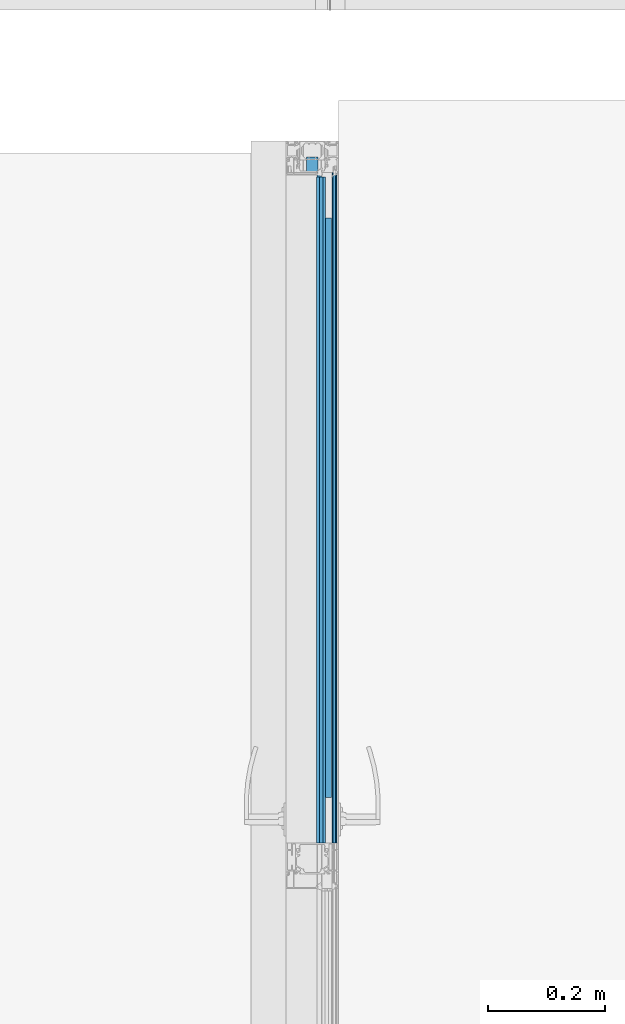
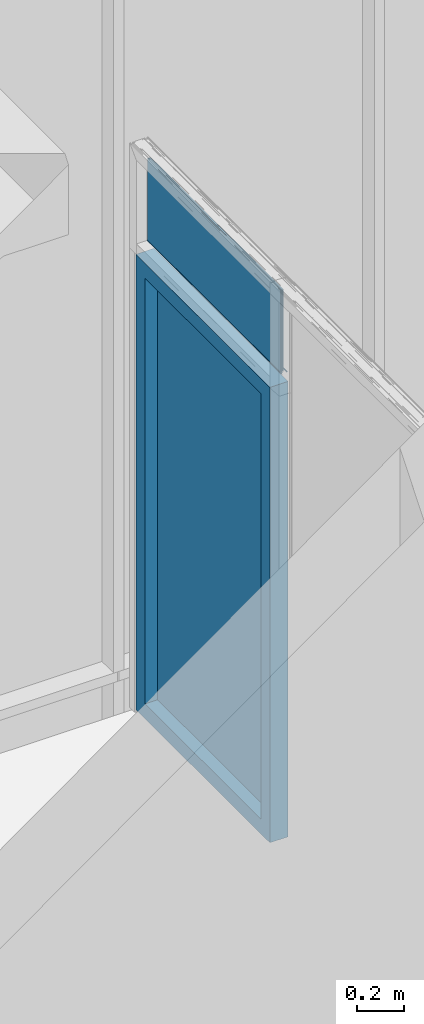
# One storey, part 41 of 62: 5 building element parts, 4 elements without a shape of their own.
"""IFC2X3 building model written with IfcOpenShell, lengths in millimetres."""

import ifcopenshell
import ifcopenshell.guid

model = None  # the IFC model being written
_history = None  # IfcOwnerHistory: only IFC2X3 demands one
_inside = {}  # id of a spatial element -> (the spatial element, [elements in it])
_under = {}  # id of a project, library or spatial element -> (it, [spatial elements below it])
_declared = {}  # id of a project -> (the project, [libraries it declares])
_typed = {}  # id of a type object -> (the type object, [elements of that type])
_made_of = {}  # id of a material, layer set ... -> (it, [elements and type objects made of it])


def new_model(schema):
    """Start an empty IFC model of exactly this schema.

    Asked for "IFC4X3", IfcOpenShell would pick the latest addendum, in which some entities
    have other attributes; the version numbers below select the first issue.
    IFC2X3 requires an IfcOwnerHistory on every rooted entity: one is made here for all.
    """
    global model, _history
    if schema == "IFC4X3":
        model = ifcopenshell.file(schema_version=(4, 3, 0, 0))
    else:
        model = ifcopenshell.file(schema=schema)
    _inside.clear()
    _under.clear()
    _declared.clear()
    _typed.clear()
    _made_of.clear()
    _history = None
    if model.schema == "IFC2X3":
        org = make("IfcOrganization", Name="unknown")
        user = make(
            "IfcPersonAndOrganization",
            ThePerson=make("IfcPerson", FamilyName="unknown"),
            TheOrganization=org,
        )
        app = make(
            "IfcApplication",
            ApplicationDeveloper=org,
            Version="unknown",
            ApplicationFullName="unknown",
            ApplicationIdentifier="unknown",
        )
        _history = make(
            "IfcOwnerHistory",
            OwningUser=user,
            OwningApplication=app,
            ChangeAction="ADDED",
            CreationDate=0,
        )
    return model


def make(cls, **values):
    """One entity of the class cls with the attributes given. An attribute that is None is left unset."""
    return model.create_entity(
        cls, **{name: value for name, value in values.items() if value is not None}
    )


def entity(cls, *values):
    """Any entity or typed value of the class cls, its attributes in the order of the schema. None: left unset."""
    e = model.create_entity(cls)
    for i, value in enumerate(values):
        if value is not None:
            e[i] = value
    return e


def rooted(cls, **values):
    """An entity with a GlobalId (a new one), such as an element, a storey or a relation."""
    return make(cls, GlobalId=ifcopenshell.guid.new(), OwnerHistory=_history, **values)


def si_unit(unit_type, name, prefix=None):
    """IfcSIUnit, for example si_unit("LENGTHUNIT", "METRE", prefix="MILLI")."""
    return make("IfcSIUnit", UnitType=unit_type, Prefix=prefix, Name=name)


def converted_unit(unit_type, name, factor, base, dimensions=None, offset=None):
    """IfcConversionBasedUnit, such as the inch: factor (a typed value) times the base unit."""
    return make(
        "IfcConversionBasedUnit"
        if offset is None
        else "IfcConversionBasedUnitWithOffset",
        ConversionOffset=offset,
        Dimensions=None
        if dimensions is None
        else entity("IfcDimensionalExponents", *dimensions),
        UnitType=unit_type,
        Name=name,
        ConversionFactor=make(
            "IfcMeasureWithUnit", ValueComponent=factor, UnitComponent=base
        ),
    )


def derived_unit(unit_type, elements):
    """IfcDerivedUnit: a product of units, each with its exponent."""
    return make(
        "IfcDerivedUnit",
        Elements=[
            make("IfcDerivedUnitElement", Unit=unit, Exponent=power)
            for unit, power in elements
        ],
        UnitType=unit_type,
    )


def money_unit(currency):
    """IfcMonetaryUnit."""
    return make("IfcMonetaryUnit", Currency=currency)


def assignment(units):
    """IfcUnitAssignment: the units of a project."""
    return None if units is None else make("IfcUnitAssignment", Units=units)


def point(xyz):
    """IfcCartesianPoint."""
    return None if xyz is None else make("IfcCartesianPoint", Coordinates=xyz)


def direction(xyz):
    """IfcDirection."""
    return None if xyz is None else make("IfcDirection", DirectionRatios=xyz)


def frame(location, z_axis=None, x_axis=None):
    """IfcAxis2Placement3D, a coordinate frame: its origin and axes. An axis left out is left unset."""
    return make(
        "IfcAxis2Placement3D",
        Location=point(location),
        Axis=direction(z_axis),
        RefDirection=direction(x_axis),
    )


def origin_with_axes():
    """The frame at (0, 0, 0) with the z axis (0, 0, 1) and the x axis (1, 0, 0) written out."""
    return frame((0.0, 0.0, 0.0), z_axis=(0.0, 0.0, 1.0), x_axis=(1.0, 0.0, 0.0))


def place(relative_to, where):
    """IfcLocalPlacement: puts the frame where relative to a parent placement (None: the world)."""
    return make(
        "IfcLocalPlacement", PlacementRelTo=relative_to, RelativePlacement=where
    )


def context(
    kind, dimensions, precision=None, world=None, true_north=None, identifier=None
):
    """IfcGeometricRepresentationContext, for example the 3D "Model" context."""
    return make(
        "IfcGeometricRepresentationContext",
        ContextIdentifier=identifier,
        ContextType=kind,
        CoordinateSpaceDimension=dimensions,
        Precision=precision,
        WorldCoordinateSystem=world,
        TrueNorth=true_north,
    )


def subcontext(parent, identifier, kind, view, scale=None):
    """IfcGeometricRepresentationSubContext, for example "Body" below "Model"."""
    return make(
        "IfcGeometricRepresentationSubContext",
        ContextIdentifier=identifier,
        ContextType=kind,
        ParentContext=parent,
        TargetScale=scale,
        TargetView=view,
    )


def project(units=None, contexts=None):
    """IfcProject with its units and contexts."""
    return rooted(
        "IfcProject",
        Name="project",
        RepresentationContexts=contexts,
        UnitsInContext=assignment(units),
    )


def spatial(cls, under=None, at=None, **own):
    """A site, building, storey or space (cls), placed at a placement, below another one or the project."""
    s = rooted(cls, ObjectPlacement=at, **own)
    if under is not None:
        _under.setdefault(under.id(), (under, []))[1].append(s)
    return s


def faces_of(points, faces, orient=None, outer=None):
    """IfcFace entities. A face is a list of loops; a loop is a list of indices into points, from 0.

    orient and outer hold one flag for each loop. By default every Orientation is true, the
    first loop of a face is its IfcFaceOuterBound and the others are IfcFaceBound.
    """
    made = []
    for i, loops in enumerate(faces):
        bounds = []
        for j, loop in enumerate(loops):
            is_outer = j == 0 if outer is None else outer[i][j]
            bounds.append(
                make(
                    "IfcFaceOuterBound" if is_outer else "IfcFaceBound",
                    Bound=make("IfcPolyLoop", Polygon=[points[k] for k in loop]),
                    Orientation=True if orient is None else orient[i][j],
                )
            )
        made.append(make("IfcFace", Bounds=bounds))
    return made


def faceted_brep(points, faces, orient=None, outer=None, voids=None):
    """IfcFacetedBrep: a solid bounded by flat faces; with voids (closed shells), ...WithVoids."""
    shared = [point(p) for p in points]
    hull = make("IfcClosedShell", CfsFaces=faces_of(shared, faces, orient, outer))
    if voids is None:
        return make("IfcFacetedBrep", Outer=hull)
    return make(
        "IfcFacetedBrepWithVoids",
        Outer=hull,
        Voids=[
            make(cls, CfsFaces=faces_of(shared, fs, o, b)) for cls, fs, o, b in voids
        ],
    )


def shape(context_of_items, identifier, shape_type, items):
    """IfcShapeRepresentation: the items that make up one representation, for example the "Body"."""
    return make(
        "IfcShapeRepresentation",
        ContextOfItems=context_of_items,
        RepresentationIdentifier=identifier,
        RepresentationType=shape_type,
        Items=items,
    )


def material(Name=None, Category=None):
    """IfcMaterial."""
    return make("IfcMaterial", Name=Name, Category=Category)


def made_of(thing, what):
    """Note that an element or type object is made of a material, layer set ...; save() writes the relation."""
    if what is not None:
        _made_of.setdefault(what.id(), (what, []))[1].append(thing)
    return thing


def type_object(cls, material=None, **own):
    """A type object (cls), such as IfcWallType, which elements share."""
    return made_of(rooted(cls, **own), material)


def element(
    cls,
    number,
    at=None,
    inside=None,
    cuts=None,
    type_object=None,
    material=None,
    context=None,
    identifier="Body",
    shape_type=None,
    held_by="IfcProductDefinitionShape",
    body=None,
    shapes=None,
    **own,
):
    """One element of the class cls, such as IfcWall. Its Tag is "e" and its number.

    at: its placement. inside: the storey or other place that contains it. cuts: it is an
    opening in that element (IfcRelVoidsElement). A single representation is given by context,
    identifier, shape_type and body (its items); several are given by shapes. held_by: the class
    of the entity that holds the representations. save() writes the other relations.
    """
    e = rooted(cls, Tag="e%d" % number, ObjectPlacement=at, **own)
    if body is not None:
        shapes = [shape(context, identifier, shape_type, body)]
    if shapes is not None:
        e.Representation = make(held_by, Representations=shapes)
    if inside is not None:
        _inside.setdefault(inside.id(), (inside, []))[1].append(e)
    if cuts is not None:
        rooted(
            "IfcRelVoidsElement", RelatingBuildingElement=cuts, RelatedOpeningElement=e
        )
    if type_object is not None:
        _typed.setdefault(type_object.id(), (type_object, []))[1].append(e)
    return made_of(e, material)


def aggregate(whole, parts):
    """IfcRelAggregates: a whole, such as a stair, and the parts it consists of."""
    return rooted("IfcRelAggregates", RelatingObject=whole, RelatedObjects=parts)


def save(model, path):
    """Write the relations noted so far, then the file.

    IfcRelAggregates (storeys below a building ...), IfcRelContainedInSpatialStructure (elements
    in a storey), IfcRelDefinesByType, IfcRelAssociatesMaterial and IfcRelDeclares: one each for
    every whole, place, type object, material and project.
    """
    for whole, parts in _under.values():
        aggregate(whole, parts)
    for where, things in _inside.values():
        rooted(
            "IfcRelContainedInSpatialStructure",
            RelatedElements=things,
            RelatingStructure=where,
        )
    for kind, things in _typed.values():
        rooted("IfcRelDefinesByType", RelatedObjects=things, RelatingType=kind)
    for what, things in _made_of.values():
        rooted("IfcRelAssociatesMaterial", RelatedObjects=things, RelatingMaterial=what)
    for by, libraries in _declared.values():
        rooted("IfcRelDeclares", RelatingContext=by, RelatedDefinitions=libraries)
    model.write(path)


model = new_model("IFC2X3")

# Units and contexts
model_context = context("Model", 3, precision=0.01, world=origin_with_axes(), true_north=direction((0.0, 1.0)))
body_context = subcontext(model_context, "Body", "Model", "MODEL_VIEW")
ifc_project = project(units=[si_unit("LENGTHUNIT", "METRE", prefix="MILLI"), si_unit("AREAUNIT", "SQUARE_METRE"), si_unit("VOLUMEUNIT", "CUBIC_METRE"), converted_unit("PLANEANGLEUNIT", "DEGREE", entity("IfcPlaneAngleMeasure", 0.0174532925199), si_unit("PLANEANGLEUNIT", "RADIAN"), dimensions=[0, 0, 0, 0, 0, 0, 0]), si_unit("SOLIDANGLEUNIT", "STERADIAN"), money_unit("EUR"), converted_unit("TIMEUNIT", "Year", entity("IfcTimeMeasure", 31556926.0), si_unit("TIMEUNIT", "SECOND"), dimensions=[0, 0, 1, 0, 0, 0, 0]), si_unit("MASSUNIT", "GRAM", prefix="KILO"), si_unit("THERMODYNAMICTEMPERATUREUNIT", "DEGREE_CELSIUS"), si_unit("LUMINOUSINTENSITYUNIT", "LUMEN"), si_unit("ENERGYUNIT", "JOULE", prefix="MEGA"), derived_unit("THERMALCONDUCTANCEUNIT", [(si_unit("POWERUNIT", "WATT"), 1), (si_unit("LENGTHUNIT", "METRE"), -1), (si_unit("THERMODYNAMICTEMPERATUREUNIT", "KELVIN"), -1)]), derived_unit("SPECIFICHEATCAPACITYUNIT", [(si_unit("ENERGYUNIT", "JOULE"), 1), (si_unit("MASSUNIT", "GRAM", prefix="KILO"), -1), (si_unit("THERMODYNAMICTEMPERATUREUNIT", "KELVIN"), -1)]), derived_unit("MASSDENSITYUNIT", [(si_unit("MASSUNIT", "GRAM", prefix="KILO"), 1), (si_unit("VOLUMEUNIT", "CUBIC_METRE"), -1)])], contexts=[model_context])

# Site, building, storey
site_placement = place(None, origin_with_axes())
site = spatial("IfcSite", under=ifc_project, at=site_placement, Name="Puškini 31, Narva", CompositionType="ELEMENT")
building_placement = place(site_placement, origin_with_axes())
building = spatial("IfcBuilding", under=site, at=building_placement, Name="Narva Riigigümnaasium", CompositionType="ELEMENT")
storey_placement = place(building_placement, frame((0.0, 0.0, 660.0), z_axis=(0.0, 0.0, 1.0), x_axis=(1.0, 0.0, 0.0)))
storey = spatial("IfcBuildingStorey", under=building, at=storey_placement, Name="2.korrus +0.66", CompositionType="ELEMENT", Elevation=660.0)

# Curtain wall, door, building element parts, plate, member
curtain_wall_type = type_object("IfcCurtainWallType", Name="Curtain Wall Type", PredefinedType="NOTDEFINED")
curtain_wall_placement = place(storey_placement, frame((34855.0128096, 223200.000065, -2.45869393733e-05), z_axis=(0.0, 0.0, 1.0), x_axis=(1.0, 0.0, 0.0)))
curtain_wall = element("IfcCurtainWall", 1, at=curtain_wall_placement, inside=storey, type_object=curtain_wall_type, Name="G-SKLF-50")
door_style = type_object("IfcDoorStyle", Name="1132 x 2349 x 20", ConstructionType="NOTDEFINED", OperationType="NOTDEFINED", ParameterTakesPrecedence=False, Sizeable=False)
door_placement = place(curtain_wall_placement, frame((0.0, 0.0, 1200.00001229), z_axis=(0.0, 0.0, 1.0), x_axis=(4.28847155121e-06, 0.999999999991, 0.0)))
door = element("IfcDoor", 2, at=door_placement, type_object=door_style, Name="G-SKLF-50-U1", ObjectType="DOOR")
ifc_material_1 = material(Name="Alumiiniumprofiil")
building_element_part_1_placement = place(door_placement, origin_with_axes())
building_element_part_1 = element("IfcBuildingElementPart", 3, at=building_element_part_1_placement, material=ifc_material_1, Name="Alumiiniumprofiil", context=body_context, shape_type="Brep", body=[
    faceted_brep([(-600.000012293, 10.0, -1180.00001209), (-600.000012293, -10.0, -1180.00001209), (-600.000012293, -10.0, 1200.00001229), (-600.000012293, 10.0, 1200.00001229), (-558.817621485, 10.0, -1180.00001209), (-558.817621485, -10.0, -1180.00001209), (-558.817621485, -10.0, 1169.4176502), (-558.817621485, 10.0, 1169.4176502)], [[[0, 1, 2, 3]], [[4, 5, 1, 0]], [[1, 5, 6, 2]], [[3, 2, 6, 7]], [[0, 3, 7, 4]], [[7, 6, 5, 4]]]),
    faceted_brep([(-600.000012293, 10.0, 1200.00001229), (-600.000012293, -10.0, 1200.00001229), (546.80001376, -10.0, 1200.00001229), (546.80001376, 10.0, 1200.00001229), (-558.817621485, 10.0, 1169.4176502), (-558.817621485, -10.0, 1169.4176502), (573.19998542, -10.0, 1169.4176502), (573.19998542, 10.0, 1169.4176502)], [[[0, 1, 2, 3]], [[4, 5, 1, 0]], [[1, 5, 6, 2]], [[3, 2, 6, 7]], [[0, 3, 7, 4]], [[7, 6, 5, 4]]]),
    faceted_brep([(573.19998542, 10.0, 1169.4176502), (573.19998542, -10.0, 1169.4176502), (573.19998542, -10.0, -1180.00001209), (573.19998542, 10.0, -1180.00001209), (546.80001376, 10.0, 1200.00001229), (546.80001376, -10.0, 1200.00001229), (546.80001376, -10.0, -1180.00001209), (546.80001376, 10.0, -1180.00001209)], [[[0, 1, 2, 3]], [[4, 5, 1, 0]], [[1, 5, 6, 2]], [[3, 2, 6, 7]], [[0, 3, 7, 4]], [[7, 6, 5, 4]]]),
    faceted_brep([(468.80001376, -45.0, -1102.00001209), (468.80001376, -45.0, 1122.00001229), (468.80001376, 45.0, 1122.00001229), (468.80001376, 45.0, -1102.00001209), (546.80001376, -45.0, -1180.00001209), (546.80001376, -45.0, 1200.00001229), (546.80001376, 45.0, 1200.00001229), (546.80001376, 45.0, -1180.00001209)], [[[0, 1, 2, 3]], [[0, 4, 5, 1]], [[1, 5, 6, 2]], [[3, 2, 6, 7]], [[4, 0, 3, 7]], [[5, 4, 7, 6]]]),
    faceted_brep([(-600.000012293, -45.0, -1180.00001209), (-600.000012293, -45.0, 1200.00001229), (-600.000012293, 45.0, 1200.00001229), (-600.000012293, 45.0, -1180.00001209), (-522.000012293, -45.0, -1102.00001209), (-522.000012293, -45.0, 1122.00001229), (-522.000012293, 45.0, 1122.00001229), (-522.000012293, 45.0, -1102.00001209)], [[[0, 1, 2, 3]], [[0, 4, 5, 1]], [[1, 5, 6, 2]], [[3, 2, 6, 7]], [[4, 0, 3, 7]], [[5, 4, 7, 6]]]),
    faceted_brep([(-600.000012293, -45.0, -1180.00001209), (-522.000012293, -45.0, -1102.00001209), (-522.000012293, 45.0, -1102.00001209), (-600.000012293, 45.0, -1180.00001209), (546.80001376, -45.0, -1180.00001209), (468.80001376, -45.0, -1102.00001209), (468.80001376, 45.0, -1102.00001209), (546.80001376, 45.0, -1180.00001209)], [[[0, 1, 2, 3]], [[0, 4, 5, 1]], [[1, 5, 6, 2]], [[3, 2, 6, 7]], [[4, 0, 3, 7]], [[5, 4, 7, 6]]]),
    faceted_brep([(546.80001376, -45.0, 1200.00001229), (468.80001376, -45.0, 1122.00001229), (468.80001376, 45.0, 1122.00001229), (546.80001376, 45.0, 1200.00001229), (-600.000012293, -45.0, 1200.00001229), (-522.000012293, -45.0, 1122.00001229), (-522.000012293, 45.0, 1122.00001229), (-600.000012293, 45.0, 1200.00001229)], [[[0, 1, 2, 3]], [[0, 4, 5, 1]], [[1, 5, 6, 2]], [[3, 2, 6, 7]], [[4, 0, 3, 7]], [[5, 4, 7, 6]]]),
])
ifc_material_2 = material(Name="VKR-05_Klaas")
building_element_part_2_placement = place(door_placement, origin_with_axes())
building_element_part_2 = element("IfcBuildingElementPart", 4, at=building_element_part_2_placement, material=ifc_material_2, Name="VKR-05_Klaas", context=body_context, shape_type="Brep", body=[
    faceted_brep([(468.80001376, -33.0, -1102.00001209), (-522.000012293, -33.0, -1102.00001209), (-522.000012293, -17.0, -1102.00001209), (468.80001376, -17.0, -1102.00001209), (468.80001376, -33.0, 1122.00001229), (-522.000012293, -33.0, 1122.00001229), (-522.000012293, -17.0, 1122.00001229), (468.80001376, -17.0, 1122.00001229)], [[[0, 1, 2, 3]], [[0, 4, 5, 1]], [[1, 5, 6, 2]], [[3, 2, 6, 7]], [[4, 0, 3, 7]], [[5, 4, 7, 6]]]),
])
aggregate(door, [building_element_part_1, building_element_part_2])
plate_type = type_object("IfcPlateType", Name="Distinct Panel 1128 x 489 x 20", PredefinedType="CURTAIN_PANEL")
plate_placement = place(curtain_wall_placement, frame((0.0, 0.0, 2675.00002459), z_axis=(0.0, 0.0, 1.0), x_axis=(4.28847155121e-06, 0.999999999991, 0.0)))
plate = element("IfcPlate", 5, at=plate_placement, type_object=plate_type, Name="G-SKLF-50-klaas", ObjectType="CURTAIN_PANEL")
building_element_part_3_placement = place(plate_placement, origin_with_axes())
building_element_part_3 = element("IfcBuildingElementPart", 6, at=building_element_part_3_placement, material=ifc_material_2, Name="VKR-05_Klaas", context=body_context, shape_type="Brep", body=[
    faceted_brep([(-600.0, -7.0, 213.835294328), (-600.0, -12.0, 213.835294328), (538.835294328, -12.0, 213.835294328), (538.835294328, -7.00000000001, 213.835294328), (-600.0, -7.0, -213.835294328), (-600.0, -12.0, -213.835294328), (538.835294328, -12.0, -213.835294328), (538.835294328, -7.00000000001, -213.835294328)], [[[0, 1, 2, 3]], [[4, 5, 1, 0]], [[1, 5, 6, 2]], [[3, 2, 6, 7]], [[0, 3, 7, 4]], [[7, 6, 5, 4]]]),
    faceted_brep([(-600.0, -18.0, 213.835294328), (-600.0, -23.0, 213.835294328), (538.835294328, -23.0, 213.835294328), (538.835294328, -18.0, 213.835294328), (-600.0, -18.0, -213.835294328), (-600.0, -23.0, -213.835294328), (538.835294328, -23.0, -213.835294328), (538.835294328, -18.0, -213.835294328)], [[[0, 1, 2, 3]], [[4, 5, 1, 0]], [[1, 5, 6, 2]], [[3, 2, 6, 7]], [[0, 3, 7, 4]], [[7, 6, 5, 4]]]),
])
ifc_material_3 = material(Name="VKR-06_Õhkvahe")
building_element_part_4_placement = place(plate_placement, origin_with_axes())
building_element_part_4 = element("IfcBuildingElementPart", 7, at=building_element_part_4_placement, material=ifc_material_3, Name="VKR-06_Õhkvahe", context=body_context, shape_type="Brep", body=[
    faceted_brep([(-600.0, -12.0, 213.835294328), (-600.0, -18.0, 213.835294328), (538.835294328, -18.0, 213.835294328), (538.835294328, -12.0, 213.835294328), (-600.0, -12.0, -213.835294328), (-600.0, -18.0, -213.835294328), (538.835294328, -18.0, -213.835294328), (538.835294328, -12.0, -213.835294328)], [[[0, 1, 2, 3]], [[4, 5, 1, 0]], [[1, 5, 6, 2]], [[3, 2, 6, 7]], [[0, 3, 7, 4]], [[7, 6, 5, 4]]]),
])
aggregate(plate, [building_element_part_3, building_element_part_4])
member_type = type_object("IfcMemberType", Name="61 x 45", PredefinedType="MULLION")
member_placement = place(curtain_wall_placement, frame((0.00257308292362, 599.999999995, 2400.00002459), z_axis=(-4.28847155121e-06, -0.999999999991, 0.0), x_axis=(0.0, 0.0, 1.0)))
member = element("IfcMember", 8, at=member_placement, type_object=member_type, Name="G-SKLF-50-raam", ObjectType="MULLION")
aggregate(curtain_wall, [door, member, plate])
ifc_material_4 = material(Name="Membraan - Veekindel")
building_element_part_5_placement = place(member_placement, origin_with_axes())
building_element_part_5 = element("IfcBuildingElementPart", 9, at=building_element_part_5_placement, material=ifc_material_4, Name="Membraan - Veekindel", context=body_context, shape_type="Brep", body=[
    faceted_brep([(59.5800222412, -34.7381757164, 53.1998510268), (61.0413385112, -34.3892724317, 53.1998525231), (61.0413385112, -34.3941904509, 1199.99985251), (59.5800222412, -34.7430937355, 1199.99985102), (58.4755028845, -35.3630780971, 53.1998483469), (57.9693613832, -36.5268163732, 53.1998433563), (57.7000324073, -39.6001865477, 53.1998301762), (57.6464370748, -39.8001998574, 53.1998293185), (57.5000161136, -39.9466194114, 53.1998286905), (57.3000022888, -40.0002128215, 53.1998284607), (57.3000022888, -39.2001775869, 53.1998318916), (55.3000210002, -39.2001888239, 53.1998318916), (55.2330337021, -38.9501888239, 53.1998329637), (55.0500210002, -38.767176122, 53.1998337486), (54.8000210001, -38.7001888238, 53.1998340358), (54.5500210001, -38.767176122, 53.1998337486), (54.3670082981, -38.9501888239, 53.1998329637), (54.300021, -39.2001888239, 53.1998318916), (54.300021, -40.5001648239, 53.1998263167), (54.3402133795, -40.6501648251, 53.1998256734), (54.4500210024, -40.7599724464, 53.1998252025), (54.6000210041, -40.8001648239, 53.1998250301), (54.7000173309, -40.8001648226, 53.1998250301), (54.866675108, -40.8507119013, 53.1998248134), (54.9771753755, -40.9853206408, 53.1998242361), (54.9942836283, -41.1586328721, 53.1998234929), (54.9122350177, -41.3122487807, 53.1998228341), (53.8716106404, -42.3536057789, 53.1998183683), (53.7093558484, -42.4620829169, 53.199817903), (53.517932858, -42.5001768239, 53.1998177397), (51.8818844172, -42.5001768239, 53.1998177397), (51.6904310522, -42.4620703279, 53.1998179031), (51.5281601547, -42.3535592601, 53.1998183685), (50.4878083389, -41.3122011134, 53.1998228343), (50.4057850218, -41.1585900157, 53.1998234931), (50.4229059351, -40.9852952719, 53.1998242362), (50.5334025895, -40.8507044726, 53.1998248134), (50.7000457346, -40.8001648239, 53.1998250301), (50.80004, -40.8001648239, 53.1998250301), (50.95004, -40.7599724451, 53.1998252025), (51.0598476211, -40.6501648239, 53.1998256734), (51.10004, -40.5001648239, 53.1998263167), (51.10004, -39.2001832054, 53.1998318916), (51.0330541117, -38.9501828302, 53.1998329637), (50.8500424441, -38.7671690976, 53.1998337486), (50.6000428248, -38.7001803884, 53.1998340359), (50.3500424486, -38.7671662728, 53.1998337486), (50.1670287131, -38.9501779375, 53.1998329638), (50.10004, -39.2001775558, 53.1998318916), (48.7206527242, -39.2001775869, 53.1998318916), (48.7206527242, -38.0026090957, 53.1998370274), (48.7876400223, -37.7526090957, 53.1998380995), (48.9706527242, -37.5695963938, 53.1998388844), (49.2206527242, -37.5026090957, 53.1998391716), (50.3319753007, -37.5026090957, 53.1998391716), (50.5819753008, -37.4356217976, 53.1998394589), (50.7649880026, -37.2526090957, 53.1998402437), (51.1691331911, -36.5526090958, 53.1998432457), (51.352145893, -36.3695963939, 53.1998440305), (51.602145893, -36.3026090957, 53.1998443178), (53.8391557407, -36.3026090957, 53.1998443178), (54.0891557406, -36.3695963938, 53.1998440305), (54.2721684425, -36.5526090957, 53.1998432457), (54.676313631, -37.2526090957, 53.1998402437), (54.8593263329, -37.4356217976, 53.1998394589), (55.1093263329, -37.5026090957, 53.1998391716), (55.7607444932, -37.5026090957, 53.1998391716), (55.9795989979, -37.452167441, 53.1998393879), (56.1542959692, -37.3110199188, 53.1998399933), (56.2495873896, -37.1076453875, 53.1998408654), (56.9567944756, -35.6070201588, 53.1998473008), (58.2346494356, -34.5491427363, 53.1998518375), (59.8409257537, -34.1345413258, 53.1998536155), (60.7381535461, -33.9219926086, 53.199854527), (61.0108941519, -33.7850879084, 53.1998551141), (61.1423164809, -33.9684030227, 53.199854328), (61.1536677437, -34.1936748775, 53.1998533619), (53.5000340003, -40.8001834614, 53.19982503), (53.433048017, -39.4501599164, 53.1998308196), (53.2500389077, -39.267150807, 53.1998316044), (53.0000438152, -39.2001648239, 53.1998318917), (52.4000171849, -39.2001648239, 53.1998318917), (52.1500220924, -39.267150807, 53.1998316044), (51.9670129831, -39.4501599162, 53.1998308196), (51.9000269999, -39.7001550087, 53.1998297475), (51.9000269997, -40.8001834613, 53.19982503), (51.9670118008, -41.0501741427, 53.199823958), (52.150017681, -41.233180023, 53.1998231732), (52.4000083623, -41.3001648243, 53.1998228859), (53.0000526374, -41.3001648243, 53.1998228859), (53.2500433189, -41.2331800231, 53.1998231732), (53.4330491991, -41.0501741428, 53.199823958), (61.1536677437, -34.1985928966, 1199.99985335), (61.1423164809, -33.9733210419, 1199.99985432), (61.0108941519, -33.7900059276, 1199.9998551), (60.7381535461, -33.9269106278, 1199.99985452), (59.8409257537, -34.1394593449, 1199.9998536), (58.2346494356, -34.5540607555, 1199.99985183), (56.9567944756, -35.6119381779, 1199.99984729), (56.2495873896, -37.1125634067, 1199.99984085), (56.1542959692, -37.3159379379, 1199.99983998), (55.9795989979, -37.4570854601, 1199.99983938), (55.7607444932, -37.5075271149, 1199.99983916), (55.1093263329, -37.5075271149, 1199.99983916), (54.8593263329, -37.4405398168, 1199.99983945), (54.676313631, -37.2575271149, 1199.99984023), (54.2721684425, -36.5575271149, 1199.99984324), (54.0891557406, -36.374514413, 1199.99984402), (53.8391557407, -36.3075271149, 1199.99984431), (51.602145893, -36.3075271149, 1199.99984431), (51.352145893, -36.374514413, 1199.99984402), (51.1691331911, -36.5575271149, 1199.99984324), (50.7649880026, -37.2575271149, 1199.99984023), (50.5819753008, -37.4405398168, 1199.99983945), (50.3319753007, -37.5075271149, 1199.99983916), (49.2206527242, -37.5075271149, 1199.99983916), (48.9706527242, -37.574514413, 1199.99983887), (48.7876400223, -37.7575271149, 1199.99983809), (48.7206527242, -38.0075271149, 1199.99983702), (48.7206527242, -39.2050956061, 1199.99983188), (50.10004, -39.205095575, 1199.99983188), (50.1670287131, -38.9550959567, 1199.99983295), (50.3500424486, -38.772084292, 1199.99983374), (50.6000428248, -38.7050984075, 1199.99983403), (50.8500424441, -38.7720871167, 1199.99983374), (51.0330541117, -38.9551008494, 1199.99983295), (51.10004, -39.2051012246, 1199.99983188), (51.10004, -40.5050828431, 1199.99982631), (51.0598476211, -40.6550828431, 1199.99982566), (50.95004, -40.7648904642, 1199.99982519), (50.80004, -40.8050828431, 1199.99982502), (50.7000457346, -40.8050828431, 1199.99982502), (50.5334025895, -40.8556224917, 1199.9998248), (50.4229059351, -40.9902132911, 1199.99982423), (50.4057850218, -41.1635080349, 1199.99982348), (50.4878083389, -41.3171191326, 1199.99982282), (51.5281601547, -42.3584772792, 1199.99981836), (51.6904310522, -42.4669883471, 1199.99981789), (51.8818844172, -42.5050948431, 1199.99981773), (53.517932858, -42.5050948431, 1199.99981773), (53.7093558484, -42.4670009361, 1199.99981789), (53.8716106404, -42.3585237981, 1199.99981836), (54.9122350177, -41.3171667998, 1199.99982282), (54.9942836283, -41.1635508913, 1199.99982348), (54.9771753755, -40.99023866, 1199.99982423), (54.866675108, -40.8556299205, 1199.9998248), (54.7000173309, -40.8050828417, 1199.99982502), (54.6000210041, -40.8050828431, 1199.99982502), (54.4500210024, -40.7648904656, 1199.99982519), (54.3402133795, -40.6550828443, 1199.99982566), (54.300021, -40.5050828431, 1199.99982631), (54.300021, -39.2051068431, 1199.99983188), (54.3670082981, -38.9551068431, 1199.99983295), (54.5500210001, -38.7720941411, 1199.99983374), (54.8000210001, -38.705106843, 1199.99983403), (55.0500210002, -38.7720941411, 1199.99983374), (55.2330337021, -38.9551068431, 1199.99983295), (55.3000210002, -39.2051068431, 1199.99983188), (57.3000022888, -39.2050956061, 1199.99983188), (57.3000022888, -40.0051308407, 1199.99982845), (57.5000161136, -39.9515374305, 1199.99982868), (57.6464370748, -39.8051178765, 1199.99982931), (57.7000324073, -39.6051045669, 1199.99983017), (57.9693613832, -36.5317343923, 1199.99984335), (58.4755028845, -35.3679961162, 1199.99984834), (53.5000340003, -40.8051014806, 1199.99982502), (53.4330491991, -41.055092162, 1199.99982395), (53.2500433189, -41.2380980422, 1199.99982316), (53.0000526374, -41.3050828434, 1199.99982288), (52.4000083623, -41.3050828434, 1199.99982288), (52.150017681, -41.2380980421, 1199.99982316), (51.9670118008, -41.0550921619, 1199.99982395), (51.9000269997, -40.8051014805, 1199.99982502), (51.9000269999, -39.7050730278, 1199.99982974), (51.9670129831, -39.4550779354, 1199.99983081), (52.1500220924, -39.2720688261, 1199.99983159), (52.4000171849, -39.205082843, 1199.99983188), (53.0000438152, -39.205082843, 1199.99983188), (53.2500389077, -39.2720688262, 1199.99983159), (53.433048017, -39.4550779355, 1199.99983081)], [[[0, 1, 2, 3]], [[1, 0, 4, 5, 6, 7, 8, 9, 10, 11, 12, 13, 14, 15, 16, 17, 18, 19, 20, 21, 22, 23, 24, 25, 26, 27, 28, 29, 30, 31, 32, 33, 34, 35, 36, 37, 38, 39, 40, 41, 42, 43, 44, 45, 46, 47, 48, 49, 50, 51, 52, 53, 54, 55, 56, 57, 58, 59, 60, 61, 62, 63, 64, 65, 66, 67, 68, 69, 70, 71, 72, 73, 74, 75, 76], [77, 78, 79, 80, 81, 82, 83, 84, 85, 86, 87, 88, 89, 90, 91]], [[1, 76, 92, 2]], [[2, 92, 93, 94, 95, 96, 97, 98, 99, 100, 101, 102, 103, 104, 105, 106, 107, 108, 109, 110, 111, 112, 113, 114, 115, 116, 117, 118, 119, 120, 121, 122, 123, 124, 125, 126, 127, 128, 129, 130, 131, 132, 133, 134, 135, 136, 137, 138, 139, 140, 141, 142, 143, 144, 145, 146, 147, 148, 149, 150, 151, 152, 153, 154, 155, 156, 157, 158, 159, 160, 161, 162, 163, 164, 3], [165, 166, 167, 168, 169, 170, 171, 172, 173, 174, 175, 176, 177, 178, 179]], [[4, 0, 3, 164]], [[5, 4, 164, 163]], [[6, 5, 163, 162]], [[7, 6, 162, 161]], [[8, 7, 161, 160]], [[9, 8, 160, 159]], [[10, 9, 159, 158]], [[11, 10, 158, 157]], [[12, 11, 157, 156]], [[13, 12, 156, 155]], [[14, 13, 155, 154]], [[15, 14, 154, 153]], [[16, 15, 153, 152]], [[17, 16, 152, 151]], [[18, 17, 151, 150]], [[19, 18, 150, 149]], [[20, 19, 149, 148]], [[21, 20, 148, 147]], [[22, 21, 147, 146]], [[23, 22, 146, 145]], [[24, 23, 145, 144]], [[25, 24, 144, 143]], [[26, 25, 143, 142]], [[27, 26, 142, 141]], [[28, 27, 141, 140]], [[29, 28, 140, 139]], [[30, 29, 139, 138]], [[31, 30, 138, 137]], [[32, 31, 137, 136]], [[33, 32, 136, 135]], [[34, 33, 135, 134]], [[35, 34, 134, 133]], [[36, 35, 133, 132]], [[37, 36, 132, 131]], [[38, 37, 131, 130]], [[39, 38, 130, 129]], [[40, 39, 129, 128]], [[41, 40, 128, 127]], [[42, 41, 127, 126]], [[43, 42, 126, 125]], [[44, 43, 125, 124]], [[45, 44, 124, 123]], [[46, 45, 123, 122]], [[47, 46, 122, 121]], [[48, 47, 121, 120]], [[49, 48, 120, 119]], [[50, 49, 119, 118]], [[51, 50, 118, 117]], [[52, 51, 117, 116]], [[53, 52, 116, 115]], [[54, 53, 115, 114]], [[55, 54, 114, 113]], [[56, 55, 113, 112]], [[57, 56, 112, 111]], [[58, 57, 111, 110]], [[59, 58, 110, 109]], [[60, 59, 109, 108]], [[61, 60, 108, 107]], [[62, 61, 107, 106]], [[63, 62, 106, 105]], [[64, 63, 105, 104]], [[65, 64, 104, 103]], [[66, 65, 103, 102]], [[67, 66, 102, 101]], [[68, 67, 101, 100]], [[69, 68, 100, 99]], [[70, 69, 99, 98]], [[71, 70, 98, 97]], [[72, 71, 97, 96]], [[73, 72, 96, 95]], [[74, 73, 95, 94]], [[75, 74, 94, 93]], [[76, 75, 93, 92]], [[78, 77, 165, 179]], [[79, 78, 179, 178]], [[80, 79, 178, 177]], [[81, 80, 177, 176]], [[82, 81, 176, 175]], [[83, 82, 175, 174]], [[84, 83, 174, 173]], [[85, 84, 173, 172]], [[86, 85, 172, 171]], [[87, 86, 171, 170]], [[88, 87, 170, 169]], [[89, 88, 169, 168]], [[90, 89, 168, 167]], [[91, 90, 167, 166]], [[77, 91, 166, 165]]]),
    faceted_brep([(55.9926715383, -16.8065779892, 53.199927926), (59.0307115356, -16.5543779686, 53.1999290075), (59.0307115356, -16.5592959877, 1199.999929), (55.9926715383, -16.8114960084, 1199.99992792), (53.7899070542, -16.6232320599, 53.1999287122), (53.1225200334, -16.3485343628, 53.1999298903), (51.5205025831, -15.0101867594, 53.1999356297), (51.3011765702, -14.9001096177, 53.1999361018), (51.0558924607, -14.907631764, 53.1999360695), (50.8437237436, -15.0309415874, 53.1999355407), (50.5536994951, -15.2123460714, 53.1999347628), (46.298307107, -16.734298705, 53.1999282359), (45.950966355, -16.772097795, 53.1999280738), (45.6241929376, -16.6484308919, 53.1999286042), (45.3889077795, -16.3901379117, 53.1999297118), (45.3195226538, -16.2154556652, 53.199930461), (45.3418968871, -15.7690904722, 53.1999323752), (45.6142070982, -15.4147041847, 53.199933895), (51.8169217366, -8.74622637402, 53.1999624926), (51.938943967, -8.63287284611, 53.1999629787), (52.1026310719, -8.60213234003, 53.1999631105), (52.2574645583, -8.66349224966, 53.1999628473), (52.3556584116, -8.79801516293, 53.1999622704), (52.7761212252, -9.95322724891, 53.1999573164), (52.8859560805, -10.0963668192, 53.1999567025), (53.0580290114, -10.1506212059, 53.1999564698), (55.1123574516, -10.1506212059, 53.1999564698), (55.2731258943, -10.1039066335, 53.1999566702), (55.3838261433, -9.978311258, 53.1999572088), (55.4099827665, -9.81294930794, 53.1999579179), (55.2940485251, -8.85260599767, 53.1999620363), (55.3307332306, -8.72776643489, 53.1999625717), (55.4168250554, -8.63020167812, 53.1999629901), (55.5361285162, -8.57826548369, 53.1999632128), (56.9361285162, -8.30613305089, 53.1999643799), (57.0661058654, -8.3095719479, 53.1999643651), (57.1824204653, -8.36768262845, 53.1999641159), (57.2632233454, -8.46954936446, 53.1999636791), (57.5418652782, -10.0038211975, 53.1999570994), (59.3405112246, -15.0015236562, 53.1999356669), (59.5001582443, -15.5496348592, 53.1999333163), (59.3884652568, -16.1094899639, 53.1999309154), (59.3884652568, -16.114407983, 1199.9999309), (59.5001582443, -15.5545528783, 1199.99993331), (59.3405112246, -15.0064416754, 1199.99993566), (57.5418652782, -10.0087392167, 1199.99995709), (57.2632233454, -8.47446738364, 1199.99996367), (57.1824204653, -8.37260064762, 1199.99996411), (57.0661058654, -8.31448996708, 1199.99996435), (56.9361285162, -8.31105107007, 1199.99996437), (55.5361285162, -8.58318350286, 1199.9999632), (55.4168250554, -8.63511969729, 1199.99996298), (55.3307332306, -8.73268445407, 1199.99996256), (55.2940485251, -8.85752401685, 1199.99996203), (55.4099827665, -9.81786732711, 1199.99995791), (55.3838261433, -9.98322927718, 1199.9999572), (55.2731258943, -10.1088246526, 1199.99995666), (55.1123574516, -10.1555392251, 1199.99995646), (53.0580290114, -10.1555392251, 1199.99995646), (52.8859560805, -10.1012848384, 1199.99995669), (52.7761212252, -9.95814526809, 1199.99995731), (52.3556584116, -8.8029331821, 1199.99996226), (52.2574645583, -8.66841026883, 1199.99996284), (52.1026310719, -8.6070503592, 1199.9999631), (51.938943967, -8.63779086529, 1199.99996297), (51.8169217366, -8.75114439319, 1199.99996248), (45.6142070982, -15.4196222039, 1199.99993388), (45.3418968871, -15.7740084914, 1199.99993236), (45.3195226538, -16.2203736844, 1199.99993045), (45.3889077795, -16.3950559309, 1199.9999297), (45.6241929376, -16.6533489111, 1199.99992859), (45.950966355, -16.7770158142, 1199.99992806), (46.298307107, -16.7392167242, 1199.99992823), (50.5536994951, -15.2172640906, 1199.99993475), (50.8437237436, -15.0358596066, 1199.99993553), (51.0558924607, -14.9125497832, 1199.99993606), (51.3011765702, -14.9050276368, 1199.99993609), (51.5205025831, -15.0151047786, 1199.99993562), (53.1225200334, -16.353452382, 1199.99992988), (53.7899070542, -16.6281500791, 1199.9999287)], [[[0, 1, 2, 3]], [[1, 0, 4, 5, 6, 7, 8, 9, 10, 11, 12, 13, 14, 15, 16, 17, 18, 19, 20, 21, 22, 23, 24, 25, 26, 27, 28, 29, 30, 31, 32, 33, 34, 35, 36, 37, 38, 39, 40, 41]], [[1, 41, 42, 2]], [[2, 42, 43, 44, 45, 46, 47, 48, 49, 50, 51, 52, 53, 54, 55, 56, 57, 58, 59, 60, 61, 62, 63, 64, 65, 66, 67, 68, 69, 70, 71, 72, 73, 74, 75, 76, 77, 78, 79, 3]], [[4, 0, 3, 79]], [[5, 4, 79, 78]], [[6, 5, 78, 77]], [[7, 6, 77, 76]], [[8, 7, 76, 75]], [[9, 8, 75, 74]], [[10, 9, 74, 73]], [[11, 10, 73, 72]], [[12, 11, 72, 71]], [[13, 12, 71, 70]], [[14, 13, 70, 69]], [[15, 14, 69, 68]], [[16, 15, 68, 67]], [[17, 16, 67, 66]], [[18, 17, 66, 65]], [[19, 18, 65, 64]], [[20, 19, 64, 63]], [[21, 20, 63, 62]], [[22, 21, 62, 61]], [[23, 22, 61, 60]], [[24, 23, 60, 59]], [[25, 24, 59, 58]], [[26, 25, 58, 57]], [[27, 26, 57, 56]], [[28, 27, 56, 55]], [[29, 28, 55, 54]], [[30, 29, 54, 53]], [[31, 30, 53, 52]], [[32, 31, 52, 51]], [[33, 32, 51, 50]], [[34, 33, 50, 49]], [[35, 34, 49, 48]], [[36, 35, 48, 47]], [[37, 36, 47, 46]], [[38, 37, 46, 45]], [[39, 38, 45, 44]], [[40, 39, 44, 43]], [[41, 40, 43, 42]]]),
])
aggregate(member, [building_element_part_5])

save(model, "model.ifc")
